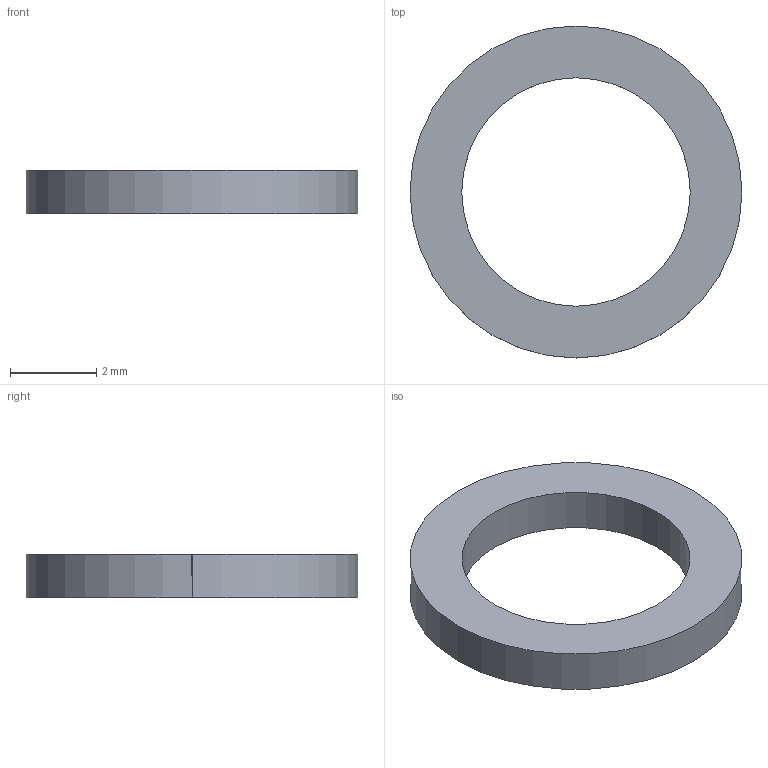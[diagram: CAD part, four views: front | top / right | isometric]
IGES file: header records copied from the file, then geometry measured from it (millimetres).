
Start section:  PTC IGES file: 1820209012\1820209012.iges
Global section: file name: 1820209012\1820209012.iges; native system: Creo Parametric by PTC Inc.; preprocessor: 2023092; author: GND7HC; organization: Unknown; date: 20250103.155038; units: millimetre
Bounding box: 7.7 x 7.7 x 1 mm (x, y, z)
Surface area: 89.8 mm2 (no closed solid volume)
Topology: 0 solids, 0 shells, 6 faces, 24 edges, 24 vertices
Faces by surface type: revolution 4, bspline 2
